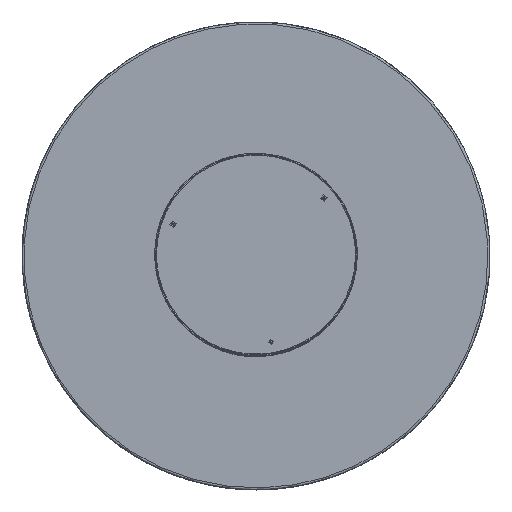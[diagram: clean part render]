
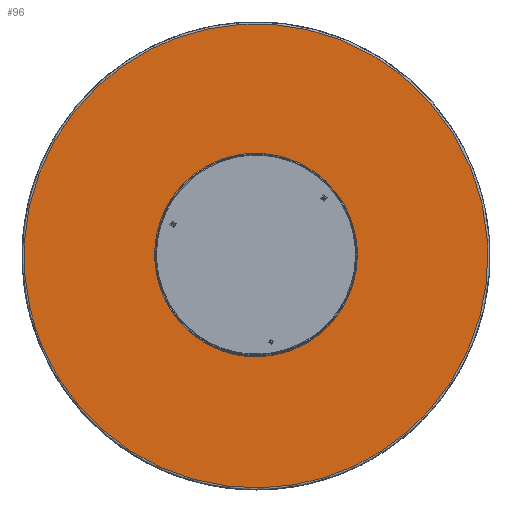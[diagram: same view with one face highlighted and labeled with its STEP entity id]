
A CAD part, top view. The second image highlights one B-rep face of the part: STEP entity #96.
In plain terms, the highlighted planar face has unit normal (0, 0, 1).
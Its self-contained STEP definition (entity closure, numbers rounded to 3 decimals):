
#45=FACE_BOUND('',#1898,.T.);
#96=ADVANCED_FACE('',(#993,#45),#12750,.T.);
#993=FACE_OUTER_BOUND('',#1897,.T.);
#1897=EDGE_LOOP('',(#2955,#2956));
#1898=EDGE_LOOP('',(#2957,#2958));
#2955=ORIENTED_EDGE('',*,*,#7168,.F.);
#2956=ORIENTED_EDGE('',*,*,#7282,.T.);
#2957=ORIENTED_EDGE('',*,*,#7280,.T.);
#2958=ORIENTED_EDGE('',*,*,#7177,.F.);
#7168=EDGE_CURVE('',#11486,#11487,#10387,.T.);
#7177=EDGE_CURVE('',#11496,#11493,#10396,.T.);
#7280=EDGE_CURVE('',#11496,#11493,#10407,.T.);
#7282=EDGE_CURVE('',#11486,#11487,#10409,.T.);
#10387=(
BOUNDED_CURVE()
B_SPLINE_CURVE(2,(#19233,#19234,#19235,#19236,#19237),.UNSPECIFIED.,.F.,
 .F.)
B_SPLINE_CURVE_WITH_KNOTS((3,2,3),(0.,370.708,741.416),
 .UNSPECIFIED.)
CURVE()
GEOMETRIC_REPRESENTATION_ITEM()
RATIONAL_B_SPLINE_CURVE((1.,0.707,1.,0.707,1.))
REPRESENTATION_ITEM('')
);
#10396=(
BOUNDED_CURVE()
B_SPLINE_CURVE(2,(#19270,#19271,#19272,#19273,#19274),.UNSPECIFIED.,.F.,
 .F.)
B_SPLINE_CURVE_WITH_KNOTS((3,2,3),(316.515,474.773,633.031),
 .UNSPECIFIED.)
CURVE()
GEOMETRIC_REPRESENTATION_ITEM()
RATIONAL_B_SPLINE_CURVE((1.,0.707,1.,0.707,1.))
REPRESENTATION_ITEM('')
);
#10407=(
BOUNDED_CURVE()
B_SPLINE_CURVE(2,(#19891,#19892,#19893,#19894,#19895),.UNSPECIFIED.,.F.,
 .F.)
B_SPLINE_CURVE_WITH_KNOTS((3,2,3),(-316.515,-158.258,
0.),.UNSPECIFIED.)
CURVE()
GEOMETRIC_REPRESENTATION_ITEM()
RATIONAL_B_SPLINE_CURVE((1.,0.707,1.,0.707,1.))
REPRESENTATION_ITEM('')
);
#10409=(
BOUNDED_CURVE()
B_SPLINE_CURVE(2,(#19901,#19902,#19903,#19904,#19905),.UNSPECIFIED.,.F.,
 .F.)
B_SPLINE_CURVE_WITH_KNOTS((3,2,3),(-741.416,-370.708,
0.),.UNSPECIFIED.)
CURVE()
GEOMETRIC_REPRESENTATION_ITEM()
RATIONAL_B_SPLINE_CURVE((1.,0.707,1.,0.707,1.))
REPRESENTATION_ITEM('')
);
#11486=VERTEX_POINT('',#19081);
#11487=VERTEX_POINT('',#19082);
#11493=VERTEX_POINT('',#19088);
#11496=VERTEX_POINT('',#19091);
#12750=PLANE('',#13688);
#13688=AXIS2_PLACEMENT_3D('',#15048,#13861,$);
#13861=DIRECTION('',(0.,0.,1.));
#15048=CARTESIAN_POINT('',(154.037,369.479,51.301));
#19081=CARTESIAN_POINT('',(218.223,89.639,51.301));
#19082=CARTESIAN_POINT('',(-218.223,-90.079,51.301));
#19088=CARTESIAN_POINT('',(-93.161,-38.582,51.301));
#19091=CARTESIAN_POINT('',(93.161,38.141,51.301));
#19233=CARTESIAN_POINT('',(218.223,89.639,51.301));
#19234=CARTESIAN_POINT('',(308.082,-128.584,51.301));
#19235=CARTESIAN_POINT('',(89.859,-218.443,51.301));
#19236=CARTESIAN_POINT('',(-128.364,-308.303,51.301));
#19237=CARTESIAN_POINT('',(-218.223,-90.079,51.301));
#19270=CARTESIAN_POINT('',(93.161,38.141,51.301));
#19271=CARTESIAN_POINT('',(54.799,131.302,51.301));
#19272=CARTESIAN_POINT('',(-38.362,92.941,51.301));
#19273=CARTESIAN_POINT('',(-131.522,54.579,51.301));
#19274=CARTESIAN_POINT('',(-93.161,-38.582,51.301));
#19891=CARTESIAN_POINT('',(93.161,38.141,51.301));
#19892=CARTESIAN_POINT('',(131.522,-55.02,51.301));
#19893=CARTESIAN_POINT('',(38.362,-93.381,51.301));
#19894=CARTESIAN_POINT('',(-54.799,-131.743,51.301));
#19895=CARTESIAN_POINT('',(-93.161,-38.582,51.301));
#19901=CARTESIAN_POINT('',(218.223,89.639,51.301));
#19902=CARTESIAN_POINT('',(128.364,307.862,51.301));
#19903=CARTESIAN_POINT('',(-89.859,218.003,51.301));
#19904=CARTESIAN_POINT('',(-308.082,128.144,51.301));
#19905=CARTESIAN_POINT('',(-218.223,-90.079,51.301));
